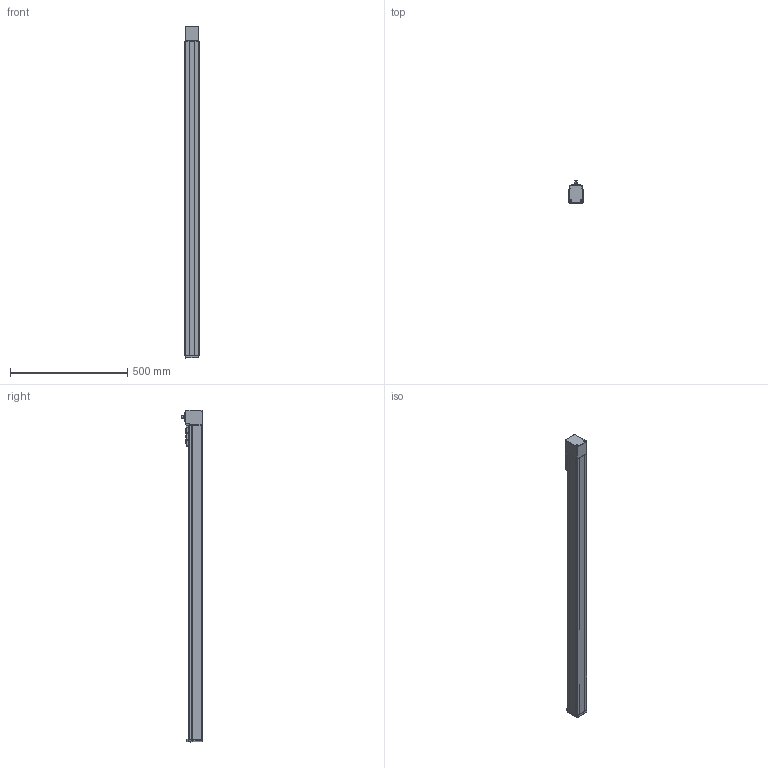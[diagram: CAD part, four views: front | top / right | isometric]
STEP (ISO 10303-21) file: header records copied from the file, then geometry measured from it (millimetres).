
FILE_DESCRIPTION(/* description */ ('STEP AP214'),/* implementation_level */ '2;1');
FILE_NAME(/* name */ 'MGTB 60 1200(0)',/* time_stamp */ '2023-04-17T13:41:53+02:00',/* author */ ('License CC BY-ND 4.0'),/* organization */ ('CADENAS'),/* preprocessor_version */ 'ST-DEVELOPER v19.3',/* originating_system */ 'PARTsolutions',/* authorisation */ ' ');
FILE_SCHEMA (('AUTOMOTIVE_DESIGN {1 0 10303 214 3 1 1}'));
Length unit declared in the file: millimetre
Products named in the file (6): MGTB 60 1200(0); MGTB 60 1200_protection_strip; MGTB 60_carriage; MGTB 60_end_block; MGTB 60 1200_profile; MGTB 60_drive_block
Assembly tree (5 placements, depth 2):
  MGTB 60 1200(0)
    MGTB 60 1200_protection_strip
    MGTB 60_carriage
    MGTB 60_end_block
    MGTB 60 1200_profile
    MGTB 60_drive_block
Bounding box: 60 x 92.5 x 1415.01 mm (x, y, z)
Volume: 4957726.2 mm3; surface area: 577274.3 mm2
Topology: 5 solids, 5 shells, 696 faces, 1771 edges, 1140 vertices
Faces by surface type: plane 351, cylinder 156, cone 94, bspline 68, torus 25, sphere 2
Full cylindrical faces by diameter (mm): 2 x1, 2.459 x4, 3.242 x6, 4 x12, 4.134 x8, 4.2 x2, 4.8 x2, 5 x2, 5.5 x4, 7 x6, 8 x4, 10 x1, 11 x3, 16 x1, 17 x1, 30 x1, 35 x1, 42 x2
Entity records: 25037 total; most frequent: CARTESIAN_POINT 4184, DIRECTION 3411, ORIENTED_EDGE 3232, EDGE_CURVE 1616, AXIS2_PLACEMENT_3D 1219, VERTEX_POINT 1120, LINE 973, VECTOR 973
